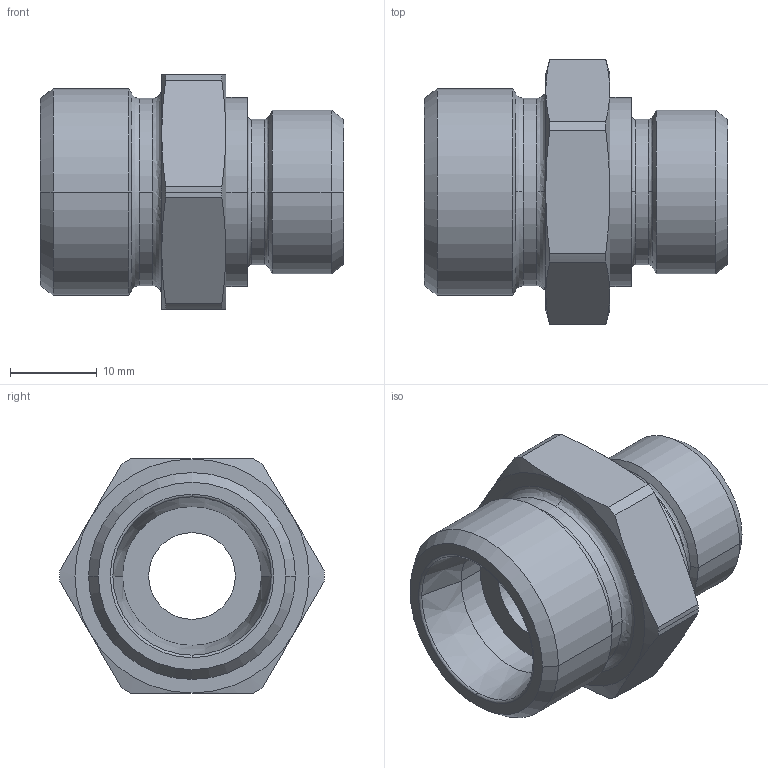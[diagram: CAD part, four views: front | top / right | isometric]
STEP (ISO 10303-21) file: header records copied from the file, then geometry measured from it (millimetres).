
FILE_DESCRIPTION((''),'2;1');
FILE_NAME('100919.stp','2007-10-30T15:28:02',(''),(''),'AutoCAD STEP 2000i','AutoCAD 2000i',', , ');
FILE_SCHEMA(('CONFIG_CONTROL_DESIGN'));
Length unit declared in the file: millimetre
Products named in the file (2): 100919.0; CHIAVE SMUSSATA#0
Assembly tree (1 placements, depth 2):
  100919.0
    CHIAVE SMUSSATA#0
Bounding box: 35 x 30.5 x 27 mm (x, y, z)
Volume: 10427.6 mm3; surface area: 4866 mm2
Topology: 1 solids, 1 shells, 68 faces, 165 edges, 103 vertices
Faces by surface type: cone 24, cylinder 22, plane 12, bspline 8, torus 2
Entity records: 2431 total; most frequent: CARTESIAN_POINT 738, DIRECTION 366, ORIENTED_EDGE 330, EDGE_CURVE 165, AXIS2_PLACEMENT_3D 163, VERTEX_POINT 103, CIRCLE 101, EDGE_LOOP 74
